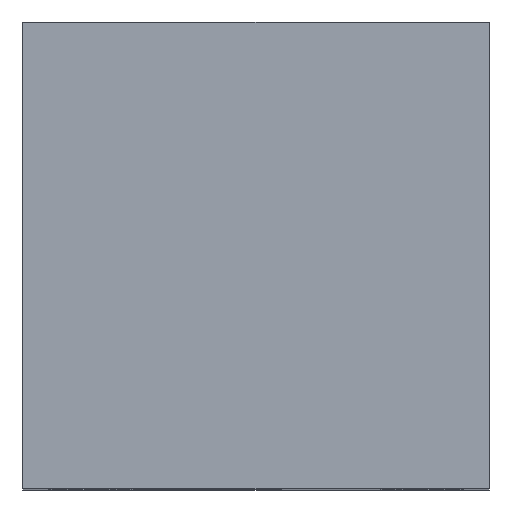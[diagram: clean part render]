
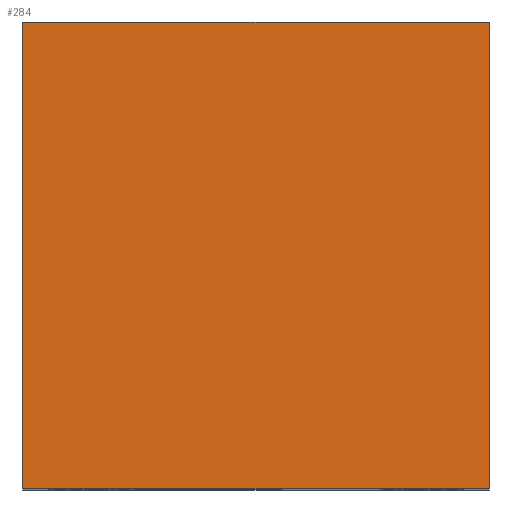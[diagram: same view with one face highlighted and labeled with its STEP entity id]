
A CAD part, top view. The second image highlights one B-rep face of the part: STEP entity #284.
In plain terms, the highlighted planar face has unit normal (0, 0, 1).
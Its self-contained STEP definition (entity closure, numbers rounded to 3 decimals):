
#118=PLANE('',#1861);
#284=ADVANCED_FACE('',(#385),#118,.F.);
#385=FACE_OUTER_BOUND('',#477,.T.);
#477=EDGE_LOOP('',(#982,#983,#984,#985));
#621=LINE('',#2829,#739);
#623=LINE('',#2833,#741);
#624=LINE('',#2835,#742);
#625=LINE('',#2837,#743);
#739=VECTOR('',#2250,1.);
#741=VECTOR('',#2254,1.);
#742=VECTOR('',#2255,1.);
#743=VECTOR('',#2256,1.);
#982=ORIENTED_EDGE('',*,*,#1557,.T.);
#983=ORIENTED_EDGE('',*,*,#1558,.F.);
#984=ORIENTED_EDGE('',*,*,#1559,.F.);
#985=ORIENTED_EDGE('',*,*,#1555,.T.);
#1370=VERTEX_POINT('',#2828);
#1371=VERTEX_POINT('',#2830);
#1372=VERTEX_POINT('',#2834);
#1373=VERTEX_POINT('',#2836);
#1555=EDGE_CURVE('',#1371,#1370,#621,.T.);
#1557=EDGE_CURVE('',#1370,#1372,#623,.T.);
#1558=EDGE_CURVE('',#1373,#1372,#624,.T.);
#1559=EDGE_CURVE('',#1371,#1373,#625,.T.);
#1861=AXIS2_PLACEMENT_3D('',#2838,#2257,#2258);
#2250=DIRECTION('',(0.,-1.,0.));
#2254=DIRECTION('',(1.,0.,0.));
#2255=DIRECTION('',(0.,-1.,0.));
#2256=DIRECTION('',(1.,0.,0.));
#2257=DIRECTION('',(0.,0.,-1.));
#2258=DIRECTION('',(1.,0.,0.));
#2828=CARTESIAN_POINT('',(-19.,-19.,64.));
#2829=CARTESIAN_POINT('',(-19.,19.,64.));
#2830=CARTESIAN_POINT('',(-19.,19.,64.));
#2833=CARTESIAN_POINT('',(-19.,-19.,64.));
#2834=CARTESIAN_POINT('',(19.,-19.,64.));
#2835=CARTESIAN_POINT('',(19.,19.,64.));
#2836=CARTESIAN_POINT('',(19.,19.,64.));
#2837=CARTESIAN_POINT('',(-19.,19.,64.));
#2838=CARTESIAN_POINT('',(-19.,19.,64.));
